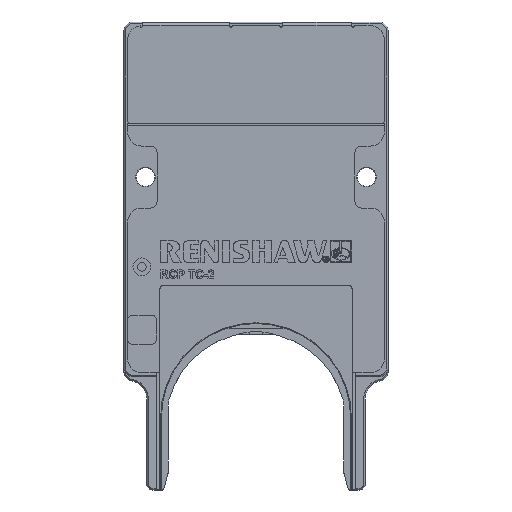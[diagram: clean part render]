
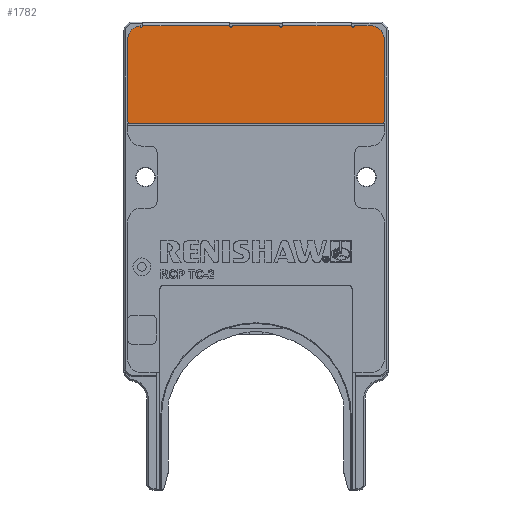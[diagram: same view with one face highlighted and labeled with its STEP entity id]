
A CAD part, top view. The second image highlights one B-rep face of the part: STEP entity #1782.
In plain terms, the highlighted planar face has unit normal (0, 0, 1).
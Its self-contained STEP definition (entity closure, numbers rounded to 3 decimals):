
#694=CIRCLE('',#5988,0.5);
#695=CIRCLE('',#5989,0.5);
#696=CIRCLE('',#5990,4.935);
#697=CIRCLE('',#5991,0.5);
#698=CIRCLE('',#5992,0.5);
#699=CIRCLE('',#5993,4.935);
#700=CIRCLE('',#5994,0.5);
#701=CIRCLE('',#5995,0.5);
#944=LINE('',#8195,#1384);
#945=LINE('',#8200,#1385);
#946=LINE('',#8204,#1386);
#947=LINE('',#8208,#1387);
#948=LINE('',#8212,#1388);
#949=LINE('',#8215,#1389);
#950=LINE('',#8218,#1390);
#1384=VECTOR('',#6554,1.);
#1385=VECTOR('',#6559,1.);
#1386=VECTOR('',#6562,1.);
#1387=VECTOR('',#6565,1.);
#1388=VECTOR('',#6568,1.);
#1389=VECTOR('',#6571,1.);
#1390=VECTOR('',#6574,1.);
#1782=ADVANCED_FACE('',(#2192),#2039,.T.);
#2039=PLANE('',#5996);
#2192=FACE_OUTER_BOUND('',#2430,.T.);
#2430=EDGE_LOOP('',(#2831,#2832,#2833,#2834,#2835,#2836,#2837,#2838,#2839,
#2840,#2841,#2842,#2843,#2844,#2845));
#2831=ORIENTED_EDGE('',*,*,#5067,.F.);
#2832=ORIENTED_EDGE('',*,*,#5068,.T.);
#2833=ORIENTED_EDGE('',*,*,#5069,.F.);
#2834=ORIENTED_EDGE('',*,*,#5070,.F.);
#2835=ORIENTED_EDGE('',*,*,#5071,.F.);
#2836=ORIENTED_EDGE('',*,*,#5072,.F.);
#2837=ORIENTED_EDGE('',*,*,#5073,.F.);
#2838=ORIENTED_EDGE('',*,*,#5074,.F.);
#2839=ORIENTED_EDGE('',*,*,#5075,.F.);
#2840=ORIENTED_EDGE('',*,*,#5076,.F.);
#2841=ORIENTED_EDGE('',*,*,#5077,.F.);
#2842=ORIENTED_EDGE('',*,*,#5078,.F.);
#2843=ORIENTED_EDGE('',*,*,#5079,.T.);
#2844=ORIENTED_EDGE('',*,*,#5080,.F.);
#2845=ORIENTED_EDGE('',*,*,#5081,.F.);
#4414=VERTEX_POINT('',#8122);
#4423=VERTEX_POINT('',#8143);
#4428=VERTEX_POINT('',#8158);
#4437=VERTEX_POINT('',#8179);
#4442=VERTEX_POINT('',#8194);
#4443=VERTEX_POINT('',#8197);
#4444=VERTEX_POINT('',#8199);
#4445=VERTEX_POINT('',#8201);
#4446=VERTEX_POINT('',#8203);
#4447=VERTEX_POINT('',#8205);
#4448=VERTEX_POINT('',#8207);
#4449=VERTEX_POINT('',#8209);
#4450=VERTEX_POINT('',#8211);
#4451=VERTEX_POINT('',#8213);
#4452=VERTEX_POINT('',#8217);
#5067=EDGE_CURVE('',#4423,#4442,#694,.T.);
#5068=EDGE_CURVE('',#4423,#4414,#944,.T.);
#5069=EDGE_CURVE('',#4443,#4414,#695,.T.);
#5070=EDGE_CURVE('',#4444,#4443,#696,.T.);
#5071=EDGE_CURVE('',#4445,#4444,#945,.T.);
#5072=EDGE_CURVE('',#4446,#4445,#697,.T.);
#5073=EDGE_CURVE('',#4447,#4446,#946,.T.);
#5074=EDGE_CURVE('',#4448,#4447,#698,.T.);
#5075=EDGE_CURVE('',#4449,#4448,#947,.T.);
#5076=EDGE_CURVE('',#4450,#4449,#699,.T.);
#5077=EDGE_CURVE('',#4451,#4450,#948,.T.);
#5078=EDGE_CURVE('',#4437,#4451,#700,.T.);
#5079=EDGE_CURVE('',#4437,#4428,#949,.T.);
#5080=EDGE_CURVE('',#4452,#4428,#701,.T.);
#5081=EDGE_CURVE('',#4442,#4452,#950,.T.);
#5988=AXIS2_PLACEMENT_3D('',#8193,#6552,#6553);
#5989=AXIS2_PLACEMENT_3D('',#8196,#6555,#6556);
#5990=AXIS2_PLACEMENT_3D('',#8198,#6557,#6558);
#5991=AXIS2_PLACEMENT_3D('',#8202,#6560,#6561);
#5992=AXIS2_PLACEMENT_3D('',#8206,#6563,#6564);
#5993=AXIS2_PLACEMENT_3D('',#8210,#6566,#6567);
#5994=AXIS2_PLACEMENT_3D('',#8214,#6569,#6570);
#5995=AXIS2_PLACEMENT_3D('',#8216,#6572,#6573);
#5996=AXIS2_PLACEMENT_3D('',#8219,#6575,#6576);
#6552=DIRECTION('',(0.,0.,1.));
#6553=DIRECTION('',(1.,0.,0.));
#6554=DIRECTION('',(-1.,0.,0.));
#6555=DIRECTION('',(0.,0.,1.));
#6556=DIRECTION('',(1.,0.,0.));
#6557=DIRECTION('',(0.,0.,-1.));
#6558=DIRECTION('',(1.,0.,0.));
#6559=DIRECTION('',(0.,1.,0.));
#6560=DIRECTION('',(0.,0.,-1.));
#6561=DIRECTION('',(1.,0.,0.));
#6562=DIRECTION('',(-1.,0.,0.));
#6563=DIRECTION('',(0.,0.,-1.));
#6564=DIRECTION('',(1.,0.,0.));
#6565=DIRECTION('',(0.,-1.,0.));
#6566=DIRECTION('',(0.,0.,-1.));
#6567=DIRECTION('',(1.,0.,0.));
#6568=DIRECTION('',(1.,0.,0.));
#6569=DIRECTION('',(0.,0.,1.));
#6570=DIRECTION('',(1.,0.,0.));
#6571=DIRECTION('',(-1.,0.,0.));
#6572=DIRECTION('',(0.,0.,1.));
#6573=DIRECTION('',(1.,0.,0.));
#6574=DIRECTION('',(1.,0.,0.));
#6575=DIRECTION('',(0.,0.,1.));
#6576=DIRECTION('',(1.,0.,0.));
#8122=CARTESIAN_POINT('',(-39.4,137.3,8.75));
#8143=CARTESIAN_POINT('',(-9.25,137.3,8.75));
#8158=CARTESIAN_POINT('',(9.25,137.3,8.75));
#8179=CARTESIAN_POINT('',(33.25,137.3,8.75));
#8193=CARTESIAN_POINT('',(-8.75,137.3,8.75));
#8194=CARTESIAN_POINT('',(-8.25,137.3,8.75));
#8195=CARTESIAN_POINT('',(-46.,137.3,8.75));
#8196=CARTESIAN_POINT('',(-39.9,137.3,8.75));
#8197=CARTESIAN_POINT('',(-40.398,137.259,8.75));
#8198=CARTESIAN_POINT('',(-39.765,132.365,8.75));
#8199=CARTESIAN_POINT('',(-44.7,132.365,8.75));
#8200=CARTESIAN_POINT('',(-44.7,103.8,8.75));
#8201=CARTESIAN_POINT('',(-44.7,103.8,8.75));
#8202=CARTESIAN_POINT('',(-44.2,103.8,8.75));
#8203=CARTESIAN_POINT('',(-44.2,103.3,8.75));
#8204=CARTESIAN_POINT('',(44.2,103.3,8.75));
#8205=CARTESIAN_POINT('',(44.2,103.3,8.75));
#8206=CARTESIAN_POINT('',(44.2,103.8,8.75));
#8207=CARTESIAN_POINT('',(44.7,103.8,8.75));
#8208=CARTESIAN_POINT('',(44.7,132.365,8.75));
#8209=CARTESIAN_POINT('',(44.7,132.365,8.75));
#8210=CARTESIAN_POINT('',(39.765,132.365,8.75));
#8211=CARTESIAN_POINT('',(39.765,137.3,8.75));
#8212=CARTESIAN_POINT('',(34.25,137.3,8.75));
#8213=CARTESIAN_POINT('',(34.25,137.3,8.75));
#8214=CARTESIAN_POINT('',(33.75,137.3,8.75));
#8215=CARTESIAN_POINT('',(-46.,137.3,8.75));
#8216=CARTESIAN_POINT('',(8.75,137.3,8.75));
#8217=CARTESIAN_POINT('',(8.25,137.3,8.75));
#8218=CARTESIAN_POINT('',(-8.25,137.3,8.75));
#8219=CARTESIAN_POINT('',(-46.,57.1,8.75));
